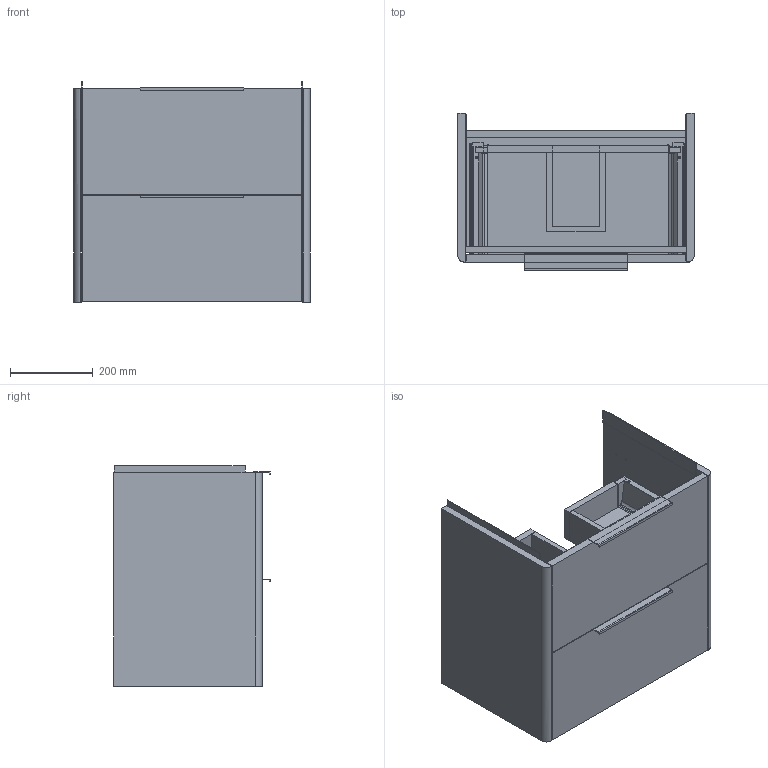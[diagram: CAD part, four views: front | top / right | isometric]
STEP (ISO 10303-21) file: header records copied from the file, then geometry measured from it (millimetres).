
FILE_DESCRIPTION(/* description */ (''),/* implementation_level */ '2;1');
FILE_NAME(/* name */ '3D714A~1',/* time_stamp */ '2018-05-07T13:24:49+02:00',/* author */ (''),/* organization */ (''),/* preprocessor_version */ 'ST-DEVELOPER v15',/* originating_system */ '',/* authorisation */ '');
FILE_SCHEMA (('AUTOMOTIVE_DESIGN'));
Length unit declared in the file: millimetre
Products named in the file (23): Document; 270-84_MIR1; 270-84_1_MIR1; 270-84_2_MIR1; 270-84_3_MIR1; 270-84; 270-84_1; 270-84_2; 270-84_3; maniglia inferiore; Maniglia superiore; Frontale cassetto inferiore; Retro_cassetto inferiore; Fascia rialzo; Retro cassetto superiore; Fondo cassetto inferiore; Fondo cassetto superiore; Fondo mobile; Fianco dx; Fianco sx; Catena inferiore; Frontale cassetto superiore; Catena_superiore
Assembly tree (24 placements, depth 3):
  Document
    270-84_MIR1  x2
      270-84_1_MIR1
      270-84_2_MIR1
      270-84_3_MIR1
    270-84  x2
      270-84_1
      270-84_2
      270-84_3
    maniglia inferiore
    Maniglia superiore
    Frontale cassetto inferiore
    Retro_cassetto inferiore
    Fascia rialzo
    Retro cassetto superiore
    Fondo cassetto inferiore
    Fondo cassetto superiore
    Fondo mobile
    Fianco dx
    Fianco sx
    Catena inferiore
    Frontale cassetto superiore
    Catena_superiore
Bounding box: 570 x 378.1 x 531 mm (x, y, z)
Volume: 22514778.9 mm3; surface area: 3348860.2 mm2
Topology: 28 solids, 28 shells, 1023 faces, 3017 edges, 2086 vertices
Faces by surface type: plane 776, bspline 247
Entity records: 19032 total; most frequent: CARTESIAN_POINT 7431, ORIENTED_EDGE 3346, EDGE_CURVE 1673, B_SPLINE_CURVE_WITH_KNOTS 1271, VERTEX_POINT 1158, EDGE_LOOP 663, DIRECTION 582, ADVANCED_FACE 581
